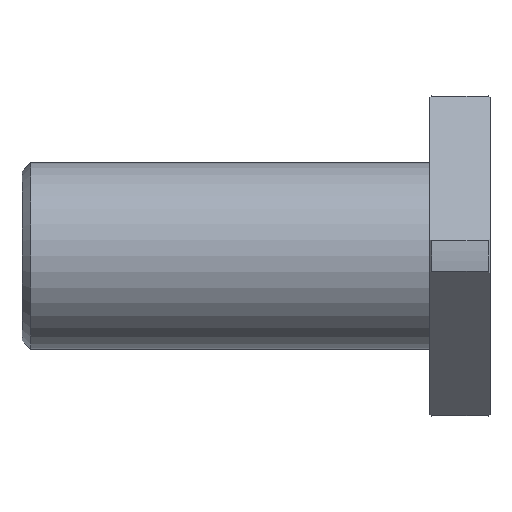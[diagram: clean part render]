
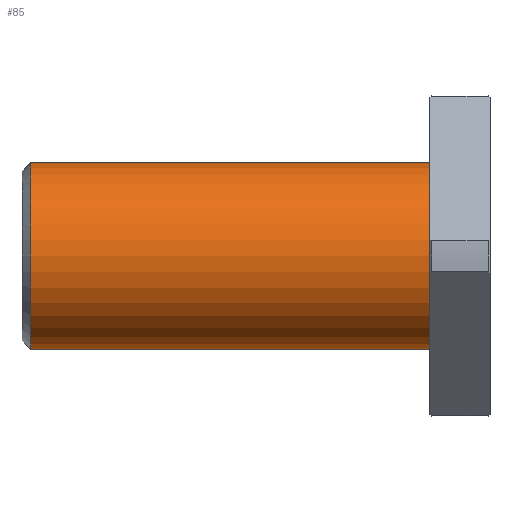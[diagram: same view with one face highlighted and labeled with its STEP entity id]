
A CAD part, front view. The second image highlights one B-rep face of the part: STEP entity #85.
In plain terms, the highlighted cylindrical face has radius 14 mm (diameter 28 mm), a full revolution.
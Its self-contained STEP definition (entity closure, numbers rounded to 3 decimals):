
#85=ADVANCED_FACE('',(#145,#146),#147,.T.);
#145=FACE_OUTER_BOUND('',#239,.T.);
#146=FACE_OUTER_BOUND('',#240,.T.);
#147=CYLINDRICAL_SURFACE('',#241,14.0);
#239=EDGE_LOOP('',(#384));
#240=EDGE_LOOP('',(#385));
#241=AXIS2_PLACEMENT_3D('',#386,#387,#388);
#384=ORIENTED_EDGE('',*,*,#565,.F.);
#385=ORIENTED_EDGE('',*,*,#583,.F.);
#386=CARTESIAN_POINT('',(-9.0,0.,0.0));
#387=DIRECTION('',(1.0,-0.0,-0.0));
#388=DIRECTION('',(0.0,0.0,1.0));
#565=EDGE_CURVE('',#660,#660,#661,.T.);
#583=EDGE_CURVE('',#692,#692,#693,.T.);
#660=VERTEX_POINT('',#817);
#661=CIRCLE('',#818,14.0);
#692=VERTEX_POINT('',#853);
#693=CIRCLE('',#854,14.0);
#817=CARTESIAN_POINT('',(-9.0,0.,-14.0));
#818=AXIS2_PLACEMENT_3D('',#953,#954,#955);
#853=CARTESIAN_POINT('',(-68.7,0.,14.0));
#854=AXIS2_PLACEMENT_3D('',#999,#1000,#1001);
#953=CARTESIAN_POINT('',(-9.0,0.,0.0));
#954=DIRECTION('',(1.0,0.0,0.0));
#955=DIRECTION('',(0.0,0.0,-1.0));
#999=CARTESIAN_POINT('',(-68.7,0.,0.0));
#1000=DIRECTION('',(-1.0,0.0,0.0));
#1001=DIRECTION('',(0.0,0.0,1.0));
